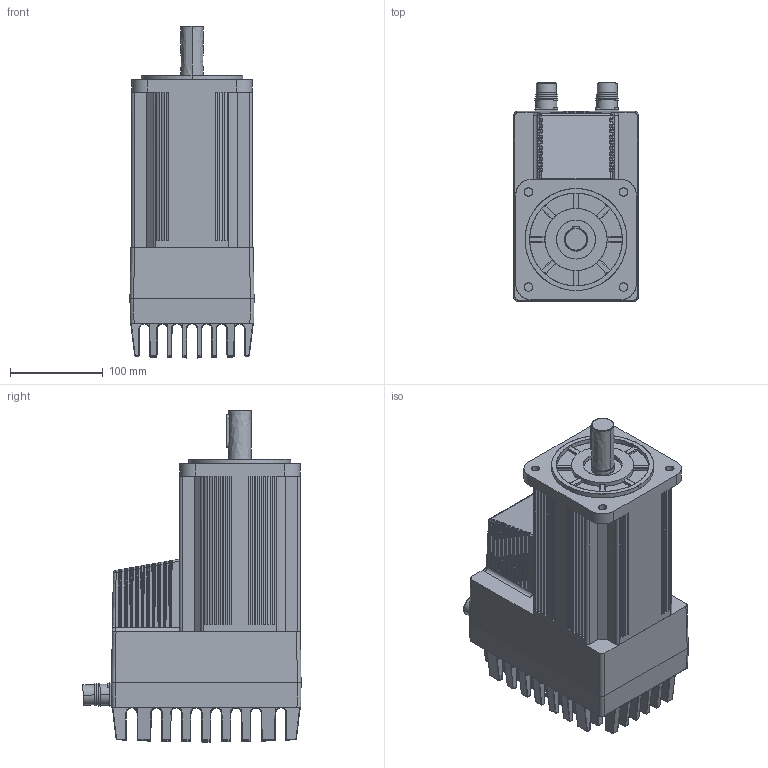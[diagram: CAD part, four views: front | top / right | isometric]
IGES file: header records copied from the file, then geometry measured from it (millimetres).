
Start section: Comment
Global section: file name: MAC3000-D2 V1_3.igs; native system:  By UGS Corp.; preprocessor: XPlus GENERIC/IGES 3.0; author: Author; organization: Title; date: 20150617.134247; units: millimetre
Bounding box: 133.88 x 235.28 x 357.98 mm (x, y, z)
Surface area: 487652.3 mm2 (no closed solid volume)
Topology: 0 solids, 0 shells, 2545 faces, 12507 edges, 12460 vertices
Faces by surface type: bspline 2545
